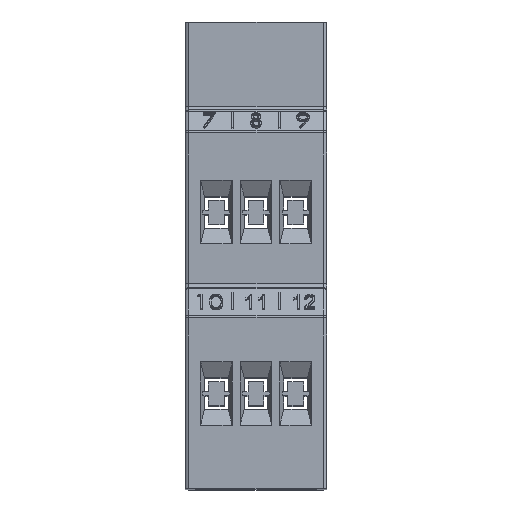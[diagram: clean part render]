
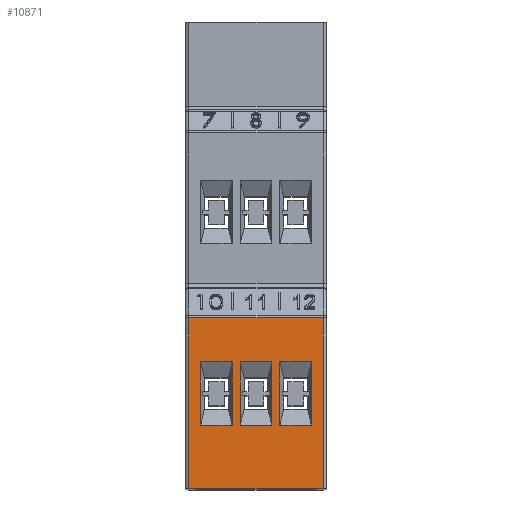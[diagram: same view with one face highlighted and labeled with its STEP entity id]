
A CAD part, top view. The second image highlights one B-rep face of the part: STEP entity #10871.
In plain terms, the highlighted planar face has unit normal (0, 0, 1).
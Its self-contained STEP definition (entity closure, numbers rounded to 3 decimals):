
#257 = LINE ( 'NONE', #63667, #53587 ) ;
#344 = VECTOR ( 'NONE', #22965, 1000. ) ;
#552 = VERTEX_POINT ( 'NONE', #41285 ) ;
#736 = EDGE_CURVE ( 'NONE', #552, #54700, #10558, .T. ) ;
#1486 = DIRECTION ( 'NONE',  ( 0., -1., 0. ) ) ;
#1711 = VERTEX_POINT ( 'NONE', #2233 ) ;
#2233 = CARTESIAN_POINT ( 'NONE',  ( -11.184, 7.925, 30.389 ) ) ;
#2577 = EDGE_CURVE ( 'NONE', #13987, #552, #39142, .T. ) ;
#3184 = ORIENTED_EDGE ( 'NONE', *, *, #45426, .T. ) ;
#3396 = EDGE_LOOP ( 'NONE', ( #8118, #60326, #33811, #33049 ) ) ;
#4043 = LINE ( 'NONE', #8875, #44370 ) ;
#4429 = CARTESIAN_POINT ( 'NONE',  ( -17.634, -0.075, 30.389 ) ) ;
#4654 = CARTESIAN_POINT ( 'NONE',  ( -6.184, 7.925, 30.389 ) ) ;
#5234 = EDGE_CURVE ( 'NONE', #1711, #15021, #18409, .T. ) ;
#5380 = LINE ( 'NONE', #4429, #58284 ) ;
#5411 = EDGE_CURVE ( 'NONE', #43372, #20839, #5380, .T. ) ;
#5442 = CARTESIAN_POINT ( 'NONE',  ( -12.184, 7.925, 30.389 ) ) ;
#5482 = DIRECTION ( 'NONE',  ( 0., -1., 0. ) ) ;
#6411 = CARTESIAN_POINT ( 'NONE',  ( -11.184, 15.925, 30.389 ) ) ;
#6813 = VECTOR ( 'NONE', #16063, 1000. ) ;
#7404 = DIRECTION ( 'NONE',  ( -1., 0., 0. ) ) ;
#7607 = CARTESIAN_POINT ( 'NONE',  ( -17.634, -0.075, 30.389 ) ) ;
#8118 = ORIENTED_EDGE ( 'NONE', *, *, #41914, .F. ) ;
#8875 = CARTESIAN_POINT ( 'NONE',  ( -6.184, 15.925, 30.389 ) ) ;
#8891 = ORIENTED_EDGE ( 'NONE', *, *, #16402, .T. ) ;
#9170 = VECTOR ( 'NONE', #5482, 1000. ) ;
#9869 = VECTOR ( 'NONE', #45875, 1000. ) ;
#10368 = CARTESIAN_POINT ( 'NONE',  ( -5.684, 7.925, 30.389 ) ) ;
#10558 = LINE ( 'NONE', #24724, #6813 ) ;
#10841 = EDGE_LOOP ( 'NONE', ( #14722, #52536, #8891, #3184 ) ) ;
#10871 = ADVANCED_FACE ( 'NONE', ( #29694, #49306, #14607, #33863 ), #24560, .T. ) ;
#12556 = VECTOR ( 'NONE', #13944, 1000. ) ;
#12838 = ORIENTED_EDGE ( 'NONE', *, *, #26068, .T. ) ;
#13212 = CARTESIAN_POINT ( 'NONE',  ( 65.759, -0.075, 30.389 ) ) ;
#13776 = ORIENTED_EDGE ( 'NONE', *, *, #2577, .T. ) ;
#13944 = DIRECTION ( 'NONE',  ( 1., 0., 0. ) ) ;
#13987 = VERTEX_POINT ( 'NONE', #23516 ) ;
#14176 = VECTOR ( 'NONE', #37715, 1000. ) ;
#14607 = FACE_BOUND ( 'NONE', #32243, .T. ) ;
#14722 = ORIENTED_EDGE ( 'NONE', *, *, #55243, .T. ) ;
#14875 = CARTESIAN_POINT ( 'NONE',  ( -7.184, 7.925, 30.389 ) ) ;
#15021 = VERTEX_POINT ( 'NONE', #6411 ) ;
#15205 = VERTEX_POINT ( 'NONE', #33399 ) ;
#15522 = CARTESIAN_POINT ( 'NONE',  ( -0.734, -0.075, 30.389 ) ) ;
#16063 = DIRECTION ( 'NONE',  ( 0., -1., 0. ) ) ;
#16402 = EDGE_CURVE ( 'NONE', #35886, #53919, #18779, .T. ) ;
#17651 = CARTESIAN_POINT ( 'NONE',  ( -16.184, 7.925, 30.389 ) ) ;
#18116 = LINE ( 'NONE', #46407, #14176 ) ;
#18409 = LINE ( 'NONE', #38011, #20757 ) ;
#18779 = LINE ( 'NONE', #28748, #12556 ) ;
#18784 = CARTESIAN_POINT ( 'NONE',  ( -17.634, 21.468, 30.389 ) ) ;
#18872 = VECTOR ( 'NONE', #56226, 1000. ) ;
#19916 = EDGE_CURVE ( 'NONE', #37954, #13987, #4043, .T. ) ;
#20757 = VECTOR ( 'NONE', #63072, 1000. ) ;
#20839 = VERTEX_POINT ( 'NONE', #7607 ) ;
#21010 = AXIS2_PLACEMENT_3D ( 'NONE', #44148, #48991, #23934 ) ;
#21117 = EDGE_CURVE ( 'NONE', #52852, #41706, #57365, .T. ) ;
#21129 = LINE ( 'NONE', #41344, #9869 ) ;
#22100 = ORIENTED_EDGE ( 'NONE', *, *, #56950, .T. ) ;
#22157 = VECTOR ( 'NONE', #60204, 1000. ) ;
#22965 = DIRECTION ( 'NONE',  ( 0., 1., 0. ) ) ;
#23516 = CARTESIAN_POINT ( 'NONE',  ( -6.184, 15.925, 30.389 ) ) ;
#23934 = DIRECTION ( 'NONE',  ( 1., 0., 0. ) ) ;
#24560 = PLANE ( 'NONE',  #21010 ) ;
#24635 = CARTESIAN_POINT ( 'NONE',  ( -7.184, 15.925, 30.389 ) ) ;
#24667 = VERTEX_POINT ( 'NONE', #24635 ) ;
#24724 = CARTESIAN_POINT ( 'NONE',  ( -2.184, 7.925, 30.389 ) ) ;
#25307 = VERTEX_POINT ( 'NONE', #17651 ) ;
#25785 = ORIENTED_EDGE ( 'NONE', *, *, #736, .T. ) ;
#26068 = EDGE_CURVE ( 'NONE', #49577, #1711, #31477, .T. ) ;
#26194 = ORIENTED_EDGE ( 'NONE', *, *, #19916, .T. ) ;
#28067 = CARTESIAN_POINT ( 'NONE',  ( -7.184, 7.925, 30.389 ) ) ;
#28132 = VECTOR ( 'NONE', #57986, 1000. ) ;
#28342 = EDGE_CURVE ( 'NONE', #54700, #37954, #45380, .T. ) ;
#28748 = CARTESIAN_POINT ( 'NONE',  ( -12.684, 15.925, 30.389 ) ) ;
#29221 = ORIENTED_EDGE ( 'NONE', *, *, #5234, .T. ) ;
#29497 = VECTOR ( 'NONE', #7404, 1000. ) ;
#29694 = FACE_BOUND ( 'NONE', #41628, .T. ) ;
#31477 = LINE ( 'NONE', #46277, #18872 ) ;
#31537 = CARTESIAN_POINT ( 'NONE',  ( -2.184, 7.925, 30.389 ) ) ;
#31666 = ORIENTED_EDGE ( 'NONE', *, *, #61357, .T. ) ;
#32243 = EDGE_LOOP ( 'NONE', ( #12838, #29221, #22100, #31666 ) ) ;
#32857 = LINE ( 'NONE', #28067, #9170 ) ;
#33049 = ORIENTED_EDGE ( 'NONE', *, *, #5411, .T. ) ;
#33399 = CARTESIAN_POINT ( 'NONE',  ( -12.184, 7.925, 30.389 ) ) ;
#33811 = ORIENTED_EDGE ( 'NONE', *, *, #45326, .T. ) ;
#33863 = FACE_OUTER_BOUND ( 'NONE', #3396, .T. ) ;
#34372 = LINE ( 'NONE', #5442, #44282 ) ;
#35531 = ORIENTED_EDGE ( 'NONE', *, *, #28342, .T. ) ;
#35886 = VERTEX_POINT ( 'NONE', #56635 ) ;
#37715 = DIRECTION ( 'NONE',  ( 0., 1., 0. ) ) ;
#37954 = VERTEX_POINT ( 'NONE', #4654 ) ;
#38011 = CARTESIAN_POINT ( 'NONE',  ( -11.184, 15.925, 30.389 ) ) ;
#39142 = LINE ( 'NONE', #50107, #48211 ) ;
#41285 = CARTESIAN_POINT ( 'NONE',  ( -2.184, 15.925, 30.389 ) ) ;
#41344 = CARTESIAN_POINT ( 'NONE',  ( -7.684, 15.925, 30.389 ) ) ;
#41628 = EDGE_LOOP ( 'NONE', ( #35531, #26194, #13776, #25785 ) ) ;
#41706 = VERTEX_POINT ( 'NONE', #47667 ) ;
#41914 = EDGE_CURVE ( 'NONE', #52852, #20839, #47274, .T. ) ;
#41918 = CARTESIAN_POINT ( 'NONE',  ( -0.734, 21.675, 30.389 ) ) ;
#43372 = VERTEX_POINT ( 'NONE', #18784 ) ;
#44148 = CARTESIAN_POINT ( 'NONE',  ( 65.759, 21.675, 30.389 ) ) ;
#44282 = VECTOR ( 'NONE', #1486, 1000. ) ;
#44370 = VECTOR ( 'NONE', #61990, 1000. ) ;
#45326 = EDGE_CURVE ( 'NONE', #41706, #43372, #257, .T. ) ;
#45380 = LINE ( 'NONE', #10368, #22157 ) ;
#45426 = EDGE_CURVE ( 'NONE', #53919, #15205, #34372, .T. ) ;
#45875 = DIRECTION ( 'NONE',  ( 1., 0., 0. ) ) ;
#46277 = CARTESIAN_POINT ( 'NONE',  ( -10.684, 7.925, 30.389 ) ) ;
#46407 = CARTESIAN_POINT ( 'NONE',  ( -16.184, 15.925, 30.389 ) ) ;
#47274 = LINE ( 'NONE', #13212, #29497 ) ;
#47667 = CARTESIAN_POINT ( 'NONE',  ( -0.734, 21.468, 30.389 ) ) ;
#48211 = VECTOR ( 'NONE', #60068, 1000. ) ;
#48435 = CARTESIAN_POINT ( 'NONE',  ( -12.184, 15.925, 30.389 ) ) ;
#48991 = DIRECTION ( 'NONE',  ( 0., 0., 1. ) ) ;
#49306 = FACE_BOUND ( 'NONE', #10841, .T. ) ;
#49528 = DIRECTION ( 'NONE',  ( -1., 0., 0. ) ) ;
#49577 = VERTEX_POINT ( 'NONE', #14875 ) ;
#50107 = CARTESIAN_POINT ( 'NONE',  ( -2.684, 15.925, 30.389 ) ) ;
#52536 = ORIENTED_EDGE ( 'NONE', *, *, #52646, .T. ) ;
#52646 = EDGE_CURVE ( 'NONE', #25307, #35886, #18116, .T. ) ;
#52852 = VERTEX_POINT ( 'NONE', #15522 ) ;
#53587 = VECTOR ( 'NONE', #49528, 1000. ) ;
#53919 = VERTEX_POINT ( 'NONE', #48435 ) ;
#54700 = VERTEX_POINT ( 'NONE', #31537 ) ;
#55243 = EDGE_CURVE ( 'NONE', #15205, #25307, #61872, .T. ) ;
#56226 = DIRECTION ( 'NONE',  ( -1., 0., 0. ) ) ;
#56635 = CARTESIAN_POINT ( 'NONE',  ( -16.184, 15.925, 30.389 ) ) ;
#56950 = EDGE_CURVE ( 'NONE', #15021, #24667, #21129, .T. ) ;
#57019 = CARTESIAN_POINT ( 'NONE',  ( -15.684, 7.925, 30.389 ) ) ;
#57365 = LINE ( 'NONE', #41918, #344 ) ;
#57866 = DIRECTION ( 'NONE',  ( 0., -1., 0. ) ) ;
#57986 = DIRECTION ( 'NONE',  ( -1., 0., 0. ) ) ;
#58284 = VECTOR ( 'NONE', #57866, 1000. ) ;
#60068 = DIRECTION ( 'NONE',  ( 1., 0., 0. ) ) ;
#60204 = DIRECTION ( 'NONE',  ( -1., 0., 0. ) ) ;
#60326 = ORIENTED_EDGE ( 'NONE', *, *, #21117, .T. ) ;
#61357 = EDGE_CURVE ( 'NONE', #24667, #49577, #32857, .T. ) ;
#61872 = LINE ( 'NONE', #57019, #28132 ) ;
#61990 = DIRECTION ( 'NONE',  ( 0., 1., 0. ) ) ;
#63072 = DIRECTION ( 'NONE',  ( 0., 1., 0. ) ) ;
#63667 = CARTESIAN_POINT ( 'NONE',  ( 65.759, 21.468, 30.389 ) ) ;
